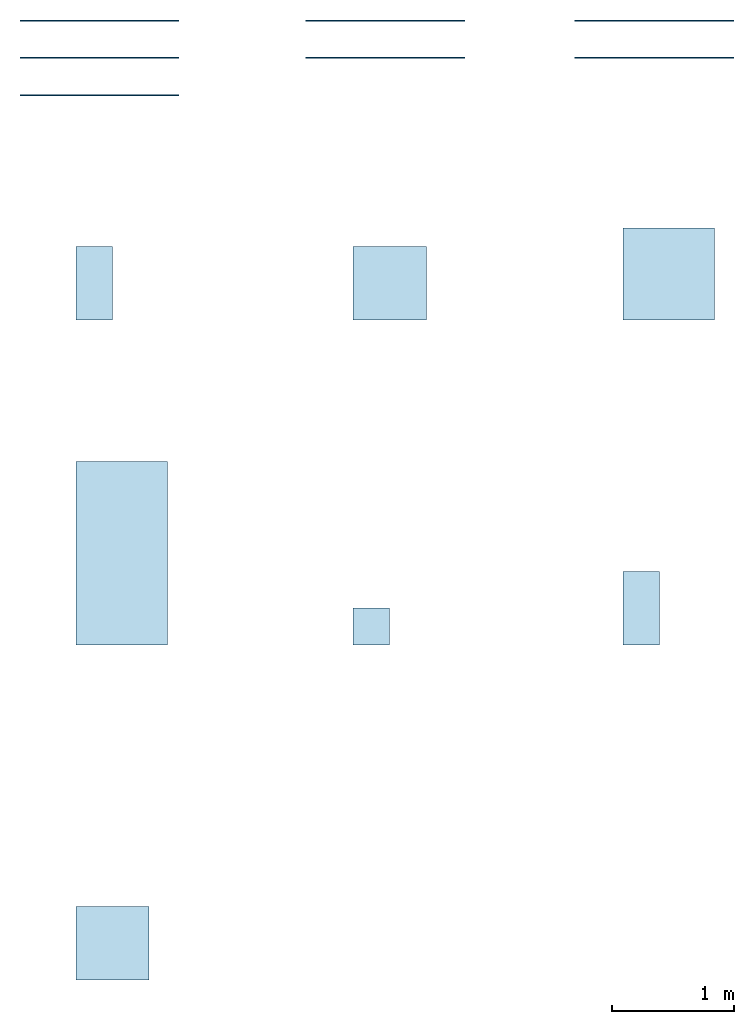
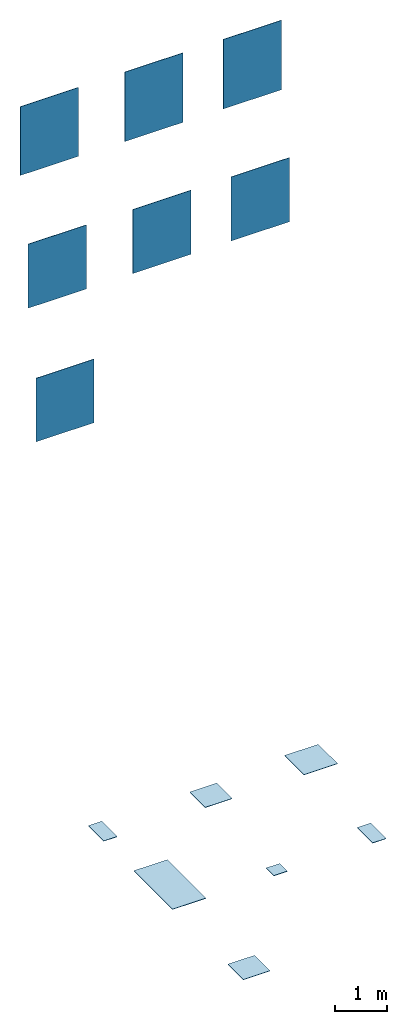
# One storey: 7 slabs, 7 walls.
"""IFC2X3 building model written with IfcOpenShell, lengths in millimetres."""

from ifc_helpers import new_model, entity, si_unit, converted_unit, derived_unit, direction, frame, frame_2d, origin, origin_2d_with_axis, place, context, subcontext, project, spatial, rectangle, extrude, material, layer, layer_set, layer_usage, type_object, element, save


model = new_model("IFC2X3")

# Units and contexts
model_context = context("Model", 3, precision=0.01, world=origin(), true_north=direction((6.12303176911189e-17, 1.0)))
body_context = subcontext(model_context, "Body", "Model", "MODEL_VIEW")
ifc_project = project(units=[si_unit("LENGTHUNIT", "METRE", prefix="MILLI"), si_unit("AREAUNIT", "SQUARE_METRE"), si_unit("VOLUMEUNIT", "CUBIC_METRE"), converted_unit("PLANEANGLEUNIT", "DEGREE", entity("IfcRatioMeasure", 0.0174532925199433), si_unit("PLANEANGLEUNIT", "RADIAN"), dimensions=[0, 0, 0, 0, 0, 0, 0]), si_unit("MASSUNIT", "GRAM", prefix="KILO"), derived_unit("MASSDENSITYUNIT", [(si_unit("MASSUNIT", "GRAM", prefix="KILO"), 1), (si_unit("LENGTHUNIT", "METRE"), -3)]), derived_unit("MOMENTOFINERTIAUNIT", [(si_unit("LENGTHUNIT", "METRE"), 4)]), si_unit("TIMEUNIT", "SECOND"), si_unit("FREQUENCYUNIT", "HERTZ"), si_unit("THERMODYNAMICTEMPERATUREUNIT", "DEGREE_CELSIUS"), derived_unit("THERMALTRANSMITTANCEUNIT", [(si_unit("MASSUNIT", "GRAM", prefix="KILO"), 1), (si_unit("THERMODYNAMICTEMPERATUREUNIT", "KELVIN"), -1), (si_unit("TIMEUNIT", "SECOND"), -3)]), derived_unit("VOLUMETRICFLOWRATEUNIT", [(si_unit("LENGTHUNIT", "METRE"), 3), (si_unit("TIMEUNIT", "SECOND"), -1)]), si_unit("ELECTRICCURRENTUNIT", "AMPERE"), si_unit("ELECTRICVOLTAGEUNIT", "VOLT"), si_unit("POWERUNIT", "WATT"), si_unit("FORCEUNIT", "NEWTON", prefix="KILO"), si_unit("ILLUMINANCEUNIT", "LUX"), si_unit("LUMINOUSFLUXUNIT", "LUMEN"), si_unit("LUMINOUSINTENSITYUNIT", "CANDELA"), derived_unit("USERDEFINED", [(si_unit("MASSUNIT", "GRAM", prefix="KILO"), -1), (si_unit("LENGTHUNIT", "METRE"), -2), (si_unit("TIMEUNIT", "SECOND"), 3), (si_unit("LUMINOUSFLUXUNIT", "LUMEN"), 1)]), derived_unit("LINEARVELOCITYUNIT", [(si_unit("LENGTHUNIT", "METRE"), 1), (si_unit("TIMEUNIT", "SECOND"), -1)]), si_unit("PRESSUREUNIT", "PASCAL"), derived_unit("USERDEFINED", [(si_unit("LENGTHUNIT", "METRE"), -2), (si_unit("MASSUNIT", "GRAM", prefix="KILO"), 1), (si_unit("TIMEUNIT", "SECOND"), -2)]), derived_unit("LINEARFORCEUNIT", [(si_unit("MASSUNIT", "GRAM", prefix="KILO"), 1), (si_unit("LENGTHUNIT", "METRE"), 1), (si_unit("TIMEUNIT", "SECOND"), -2), (si_unit("LENGTHUNIT", "METRE"), -1)]), derived_unit("PLANARFORCEUNIT", [(si_unit("MASSUNIT", "GRAM", prefix="KILO"), 1), (si_unit("LENGTHUNIT", "METRE"), 1), (si_unit("TIMEUNIT", "SECOND"), -2), (si_unit("LENGTHUNIT", "METRE"), -2)])], contexts=[model_context])

# Site, building, storey
site_placement = place(None, origin())
site = spatial("IfcSite", under=ifc_project, at=site_placement, Name="Default", CompositionType="ELEMENT")
building_placement = place(site_placement, origin())
building = spatial("IfcBuilding", under=site, at=building_placement, CompositionType="ELEMENT")
storey_placement = place(building_placement, origin())
storey = spatial("IfcBuildingStorey", under=building, at=storey_placement, Name="Level 0", CompositionType="ELEMENT", Elevation=0.0)

# Slabs
ifc_material_1 = material(Name="Prestigio-Pulpis-Lucido-30x60 NH07")
ifc_layer_1 = layer(ifc_material_1, 9.0)
ifc_material_2 = material(Name="<Unnamed>")
ifc_layer_2 = layer(ifc_material_2, 1.0)
ifc_layer_set_1 = layer_set([ifc_layer_1, ifc_layer_2], Name="Floor:Floor_Tiles_Refin-Prestigio-Pulpis-Lucido-30x60 NH07")
ifc_layer_usage_1 = layer_usage(ifc_layer_set_1, "AXIS3", "POSITIVE", 0.0)
slab_type_1 = type_object("IfcSlabType", Name="Floor:Floor_Tiles_Refin-Prestigio-Pulpis-Lucido-30x60 NH07", PredefinedType="FLOOR", material=ifc_layer_set_1)
slab_1_placement = place(storey_placement, origin())
element("IfcSlab", 1, at=slab_1_placement, inside=storey, type_object=slab_type_1, material=ifc_layer_usage_1, Name="Floor:Floor_Tiles_Refin-Prestigio-Pulpis-Lucido-30x60 NH07", ObjectType="Floor:Floor_Tiles_Refin-Prestigio-Pulpis-Lucido-30x60 NH07", PredefinedType="FLOOR", context=body_context, shape_type="SweptSolid", body=[
    extrude(rectangle(XDim=600.0, YDim=300.0, at=frame_2d((0.0, -5.40012479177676e-13), x_axis=(1.0, 0.0))), frame((6524.37520617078, 5989.4623742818, 0.0), z_axis=(0.0, 0.0, -1.0), x_axis=(0.0, 1.0, 0.0)), (0.0, 0.0, 1.0), 10.0),
])
ifc_material_3 = material(Name="Prestigio-Pulpis-Lucido-75x150 LJ22")
ifc_layer_3 = layer(ifc_material_3, 9.0)
ifc_layer_4 = layer(ifc_material_2, 1.0)
ifc_layer_set_2 = layer_set([ifc_layer_3, ifc_layer_4], Name="Floor:Floor_Tiles_Refin-Prestigio-Pulpis-Lucido-75x150 LJ22")
ifc_layer_usage_2 = layer_usage(ifc_layer_set_2, "AXIS3", "POSITIVE", 0.0)
slab_type_2 = type_object("IfcSlabType", Name="Floor:Floor_Tiles_Refin-Prestigio-Pulpis-Lucido-75x150 LJ22", PredefinedType="FLOOR", material=ifc_layer_set_2)
slab_2_placement = place(storey_placement, origin())
element("IfcSlab", 2, at=slab_2_placement, inside=storey, type_object=slab_type_2, material=ifc_layer_usage_2, Name="Floor:Floor_Tiles_Refin-Prestigio-Pulpis-Lucido-75x150 LJ22", ObjectType="Floor:Floor_Tiles_Refin-Prestigio-Pulpis-Lucido-75x150 LJ22", PredefinedType="FLOOR", context=body_context, shape_type="SweptSolid", body=[
    extrude(rectangle(XDim=1500.0, YDim=750.000000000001, at=origin_2d_with_axis()), frame((6749.37520617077, 3779.4623742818, 0.0), z_axis=(0.0, 0.0, -1.0), x_axis=(0.0, 1.0, 0.0)), (0.0, 0.0, 1.0), 10.0),
])
ifc_material_4 = material(Name="Prestigio-Pulpis-Lucido-Mosaico-30x30 LK04")
ifc_layer_5 = layer(ifc_material_4, 9.0)
ifc_layer_6 = layer(ifc_material_2, 1.0)
ifc_layer_set_3 = layer_set([ifc_layer_5, ifc_layer_6], Name="Floor:Floor_Tiles_Refin-Prestigio-Pulpis-Lucido-Mosaico-30x30 LK04")
ifc_layer_usage_3 = layer_usage(ifc_layer_set_3, "AXIS3", "POSITIVE", 0.0)
slab_type_3 = type_object("IfcSlabType", Name="Floor:Floor_Tiles_Refin-Prestigio-Pulpis-Lucido-Mosaico-30x30 LK04", PredefinedType="FLOOR", material=ifc_layer_set_3)
slab_3_placement = place(storey_placement, origin())
element("IfcSlab", 3, at=slab_3_placement, inside=storey, type_object=slab_type_3, material=ifc_layer_usage_3, Name="Floor:Floor_Tiles_Refin-Prestigio-Pulpis-Lucido-Mosaico-30x30 LK04", ObjectType="Floor:Floor_Tiles_Refin-Prestigio-Pulpis-Lucido-Mosaico-30x30 LK04", PredefinedType="FLOOR", context=body_context, shape_type="SweptSolid", body=[
    extrude(rectangle(XDim=300.0, YDim=300.000000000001, at=origin_2d_with_axis()), frame((8792.39240545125, 3179.4623742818, 0.0), z_axis=(0.0, 0.0, -1.0), x_axis=(0.0, 1.0, 0.0)), (0.0, 0.0, 1.0), 10.0),
])
ifc_material_5 = material(Name="Prestigio-Pulpis-Lucido-60x60 LJ96")
ifc_layer_7 = layer(ifc_material_5, 9.0)
ifc_layer_8 = layer(ifc_material_2, 1.0)
ifc_layer_set_4 = layer_set([ifc_layer_7, ifc_layer_8], Name="Floor:Floor_Tiles_Refin-Prestigio-Pulpis-Lucido-60x60 LJ96")
ifc_layer_usage_4 = layer_usage(ifc_layer_set_4, "AXIS3", "POSITIVE", 0.0)
slab_type_4 = type_object("IfcSlabType", Name="Floor:Floor_Tiles_Refin-Prestigio-Pulpis-Lucido-60x60 LJ96", PredefinedType="FLOOR", material=ifc_layer_set_4)
slab_4_placement = place(storey_placement, origin())
element("IfcSlab", 4, at=slab_4_placement, inside=storey, type_object=slab_type_4, material=ifc_layer_usage_4, Name="Floor:Floor_Tiles_Refin-Prestigio-Pulpis-Lucido-60x60 LJ96", ObjectType="Floor:Floor_Tiles_Refin-Prestigio-Pulpis-Lucido-60x60 LJ96", PredefinedType="FLOOR", context=body_context, shape_type="SweptSolid", body=[
    extrude(rectangle(XDim=600.0, YDim=600.0, at=origin_2d_with_axis()), frame((8942.39240545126, 5988.41920639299, 0.0), z_axis=(0.0, 0.0, -1.0), x_axis=(0.0, 1.0, 0.0)), (0.0, 0.0, 1.0), 10.0),
])
ifc_material_6 = material(Name="Prestigio-Pulpis-Soft-30x60 NE75")
ifc_layer_9 = layer(ifc_material_6, 9.0)
ifc_layer_10 = layer(ifc_material_2, 1.0)
ifc_layer_set_5 = layer_set([ifc_layer_9, ifc_layer_10], Name="Floor:Floor_Tiles_Refin-Prestigio-Pulpis-Soft-30x60 NE75")
ifc_layer_usage_5 = layer_usage(ifc_layer_set_5, "AXIS3", "POSITIVE", 0.0)
slab_type_5 = type_object("IfcSlabType", Name="Floor:Floor_Tiles_Refin-Prestigio-Pulpis-Soft-30x60 NE75", PredefinedType="FLOOR", material=ifc_layer_set_5)
slab_5_placement = place(storey_placement, origin())
element("IfcSlab", 5, at=slab_5_placement, inside=storey, type_object=slab_type_5, material=ifc_layer_usage_5, Name="Floor:Floor_Tiles_Refin-Prestigio-Pulpis-Soft-30x60 NE75", ObjectType="Floor:Floor_Tiles_Refin-Prestigio-Pulpis-Soft-30x60 NE75", PredefinedType="FLOOR", context=body_context, shape_type="SweptSolid", body=[
    extrude(rectangle(XDim=600.0, YDim=300.000000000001, at=origin_2d_with_axis()), frame((11000.4118687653, 3329.46237428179, 0.0), z_axis=(0.0, 0.0, -1.0), x_axis=(0.0, 1.0, 0.0)), (0.0, 0.0, 1.0), 10.0),
])
ifc_material_7 = material(Name="Prestigio-Pulpis-Lucido-75x75 LJ26")
ifc_layer_11 = layer(ifc_material_7, 9.0)
ifc_layer_12 = layer(ifc_material_2, 1.0)
ifc_layer_set_6 = layer_set([ifc_layer_11, ifc_layer_12], Name="Floor:Floor_Tiles_Refin-Prestigio-Pulpis-Lucido-75x75 LJ26")
ifc_layer_usage_6 = layer_usage(ifc_layer_set_6, "AXIS3", "POSITIVE", 0.0)
slab_type_6 = type_object("IfcSlabType", Name="Floor:Floor_Tiles_Refin-Prestigio-Pulpis-Lucido-75x75 LJ26", PredefinedType="FLOOR", material=ifc_layer_set_6)
slab_6_placement = place(storey_placement, origin())
element("IfcSlab", 6, at=slab_6_placement, inside=storey, type_object=slab_type_6, material=ifc_layer_usage_6, Name="Floor:Floor_Tiles_Refin-Prestigio-Pulpis-Lucido-75x75 LJ26", ObjectType="Floor:Floor_Tiles_Refin-Prestigio-Pulpis-Lucido-75x75 LJ26", PredefinedType="FLOOR", context=body_context, shape_type="SweptSolid", body=[
    extrude(rectangle(XDim=750.0, YDim=750.000000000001, at=frame_2d((5.40012479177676e-13, 1.08002495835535e-12), x_axis=(1.0, 0.0))), frame((11225.4118687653, 6064.46237428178, 0.0), z_axis=(0.0, 0.0, -1.0), x_axis=(0.0, 1.0, 0.0)), (0.0, 0.0, 1.0), 10.0),
])
ifc_material_8 = material(Name="Prestigio-Pulpis-Soft-60x60 MS13")
ifc_layer_13 = layer(ifc_material_8, 9.0)
ifc_layer_14 = layer(ifc_material_2, 1.0)
ifc_layer_set_7 = layer_set([ifc_layer_13, ifc_layer_14], Name="Floor:Floor_Tiles_Refin-Prestigio-Pulpis-Soft-60x60 MS13")
ifc_layer_usage_7 = layer_usage(ifc_layer_set_7, "AXIS3", "POSITIVE", 0.0)
slab_type_7 = type_object("IfcSlabType", Name="Floor:Floor_Tiles_Refin-Prestigio-Pulpis-Soft-60x60 MS13", PredefinedType="FLOOR", material=ifc_layer_set_7)
slab_7_placement = place(storey_placement, origin())
element("IfcSlab", 7, at=slab_7_placement, inside=storey, type_object=slab_type_7, material=ifc_layer_usage_7, Name="Floor:Floor_Tiles_Refin-Prestigio-Pulpis-Soft-60x60 MS13", ObjectType="Floor:Floor_Tiles_Refin-Prestigio-Pulpis-Soft-60x60 MS13", PredefinedType="FLOOR", context=body_context, shape_type="SweptSolid", body=[
    extrude(rectangle(XDim=600.0, YDim=600.0, at=frame_2d((0.0, -1.08002495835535e-12), x_axis=(1.0, 0.0))), frame((6674.37520617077, 587.41107270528, 0.0), z_axis=(0.0, 0.0, -1.0), x_axis=(0.0, 1.0, 0.0)), (0.0, 0.0, 1.0), 10.0),
])

# Walls
ifc_layer_15 = layer(ifc_material_2, 1.0)
ifc_layer_16 = layer(ifc_material_5, 9.0)
ifc_layer_set_8 = layer_set([ifc_layer_15, ifc_layer_16], Name="Basic Wall:Wall_Tiles_Refin-Prestigio-Pulpis-Lucido-60x60 LJ96")
ifc_layer_usage_8 = layer_usage(ifc_layer_set_8, "AXIS2", "NEGATIVE", 5.0)
wall_type_1 = type_object("IfcWallType", Name="Basic Wall:Wall_Tiles_Refin-Prestigio-Pulpis-Lucido-60x60 LJ96", PredefinedType="STANDARD", material=ifc_layer_set_8)
wall_1_placement = place(storey_placement, frame((8257.37520617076, 8137.38386313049, 14387.6770443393)))
element("IfcWallStandardCase", 8, at=wall_1_placement, inside=storey, type_object=wall_type_1, material=ifc_layer_usage_8, Name="Basic Wall:Wall_Tiles_Refin-Prestigio-Pulpis-Lucido-60x60 LJ96", ObjectType="Basic Wall:Wall_Tiles_Refin-Prestigio-Pulpis-Lucido-60x60 LJ96", context=body_context, shape_type="SweptSolid", body=[
    extrude(rectangle(XDim=1300.0, YDim=9.99999999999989, at=frame_2d((650.0, 7.63833440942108e-14), x_axis=(-1.0, 0.0))), origin(), (0.0, 0.0, 1.0), 1641.74173522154),
])
ifc_layer_17 = layer(ifc_material_2, 1.0)
ifc_layer_18 = layer(ifc_material_7, 9.0)
ifc_layer_set_9 = layer_set([ifc_layer_17, ifc_layer_18], Name="Basic Wall:Wall_Tiles_Refin-Prestigio-Pulpis-Lucido-75x75 LJ25")
ifc_layer_usage_9 = layer_usage(ifc_layer_set_9, "AXIS2", "NEGATIVE", 5.0)
wall_type_2 = type_object("IfcWallType", Name="Basic Wall:Wall_Tiles_Refin-Prestigio-Pulpis-Lucido-75x75 LJ25", PredefinedType="STANDARD", material=ifc_layer_set_9)
wall_2_placement = place(storey_placement, frame((10457.3752061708, 8137.38386313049, 14387.6770443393)))
element("IfcWallStandardCase", 9, at=wall_2_placement, inside=storey, type_object=wall_type_2, material=ifc_layer_usage_9, Name="Basic Wall:Wall_Tiles_Refin-Prestigio-Pulpis-Lucido-75x75 LJ25", ObjectType="Basic Wall:Wall_Tiles_Refin-Prestigio-Pulpis-Lucido-75x75 LJ25", context=body_context, shape_type="SweptSolid", body=[
    extrude(rectangle(XDim=1300.0, YDim=9.99999999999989, at=frame_2d((650.0, 7.63833440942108e-14), x_axis=(-1.0, 0.0))), origin(), (0.0, 0.0, 1.0), 1641.74173522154),
])
ifc_layer_19 = layer(ifc_material_2, 1.0)
ifc_layer_20 = layer(ifc_material_1, 9.0)
ifc_layer_set_10 = layer_set([ifc_layer_19, ifc_layer_20], Name="Basic Wall:Wall_Tiles_Refin-Prestigio-Pulpis-Lucido-30x60 NH07")
ifc_layer_usage_10 = layer_usage(ifc_layer_set_10, "AXIS2", "NEGATIVE", 5.0)
wall_type_3 = type_object("IfcWallType", Name="Basic Wall:Wall_Tiles_Refin-Prestigio-Pulpis-Lucido-30x60 NH07", PredefinedType="STANDARD", material=ifc_layer_set_10)
wall_3_placement = place(storey_placement, frame((5917.37520617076, 8137.38386313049, 14403.726734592)))
element("IfcWallStandardCase", 10, at=wall_3_placement, inside=storey, type_object=wall_type_3, material=ifc_layer_usage_10, Name="Basic Wall:Wall_Tiles_Refin-Prestigio-Pulpis-Lucido-30x60 NH07", ObjectType="Basic Wall:Wall_Tiles_Refin-Prestigio-Pulpis-Lucido-30x60 NH07", context=body_context, shape_type="SweptSolid", body=[
    extrude(rectangle(XDim=1300.0, YDim=9.99999999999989, at=frame_2d((650.0, 7.63833440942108e-14), x_axis=(-1.0, 0.0))), origin(), (0.0, 0.0, 1.0), 1625.69204496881),
])
ifc_layer_21 = layer(ifc_material_2, 1.0)
ifc_layer_22 = layer(ifc_material_4, 9.0)
ifc_layer_set_11 = layer_set([ifc_layer_21, ifc_layer_22], Name="Basic Wall:Wall_Tiles_Refin-Prestigio-Pulpis-Lucido-Mosaico-30x30 LK04")
ifc_layer_usage_11 = layer_usage(ifc_layer_set_11, "AXIS2", "NEGATIVE", 5.0)
wall_type_4 = type_object("IfcWallType", Name="Basic Wall:Wall_Tiles_Refin-Prestigio-Pulpis-Lucido-Mosaico-30x30 LK04", PredefinedType="STANDARD", material=ifc_layer_set_11)
wall_4_placement = place(storey_placement, frame((8257.37520617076, 7832.38386313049, 11452.5436262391)))
element("IfcWallStandardCase", 11, at=wall_4_placement, inside=storey, type_object=wall_type_4, material=ifc_layer_usage_11, Name="Basic Wall:Wall_Tiles_Refin-Prestigio-Pulpis-Lucido-Mosaico-30x30 LK04", ObjectType="Basic Wall:Wall_Tiles_Refin-Prestigio-Pulpis-Lucido-Mosaico-30x30 LK04", context=body_context, shape_type="SweptSolid", body=[
    extrude(rectangle(XDim=1300.0, YDim=9.99999999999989, at=frame_2d((650.0, 0.0), x_axis=(-1.0, 0.0))), origin(), (0.0, 0.0, 1.0), 1513.19855655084),
])
ifc_layer_23 = layer(ifc_material_2, 1.0)
ifc_layer_24 = layer(ifc_material_8, 9.0)
ifc_layer_set_12 = layer_set([ifc_layer_23, ifc_layer_24], Name="Basic Wall:Wall_Tiles_Refin-Prestigio-Pulpis-Soft-60x60 MS13")
ifc_layer_usage_12 = layer_usage(ifc_layer_set_12, "AXIS2", "NEGATIVE", 5.0)
wall_type_5 = type_object("IfcWallType", Name="Basic Wall:Wall_Tiles_Refin-Prestigio-Pulpis-Soft-60x60 MS13", PredefinedType="STANDARD", material=ifc_layer_set_12)
wall_5_placement = place(storey_placement, frame((5917.37520617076, 7527.38386313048, 8479.10272143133)))
element("IfcWallStandardCase", 12, at=wall_5_placement, inside=storey, type_object=wall_type_5, material=ifc_layer_usage_12, Name="Basic Wall:Wall_Tiles_Refin-Prestigio-Pulpis-Soft-60x60 MS13", ObjectType="Basic Wall:Wall_Tiles_Refin-Prestigio-Pulpis-Soft-60x60 MS13", context=body_context, shape_type="SweptSolid", body=[
    extrude(rectangle(XDim=1300.0, YDim=9.99999999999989, at=frame_2d((650.0, 0.0), x_axis=(-1.0, 0.0))), origin(), (0.0, 0.0, 1.0), 1502.57401590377),
])
ifc_layer_25 = layer(ifc_material_2, 1.0)
ifc_layer_26 = layer(ifc_material_3, 9.0)
ifc_layer_set_13 = layer_set([ifc_layer_25, ifc_layer_26], Name="Basic Wall:Wall_Tiles_Refin-Prestigio-Pulpis-Lucido-75x150 LJ22")
ifc_layer_usage_13 = layer_usage(ifc_layer_set_13, "AXIS2", "POSITIVE", -5.0)
wall_type_6 = type_object("IfcWallType", Name="Basic Wall:Wall_Tiles_Refin-Prestigio-Pulpis-Lucido-75x150 LJ22", PredefinedType="STANDARD", material=ifc_layer_set_13)
wall_6_placement = place(storey_placement, frame((7217.37520617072, 7832.38386313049, 11452.5436262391), z_axis=(0.0, 0.0, 1.0), x_axis=(-1.0, 0.0, 0.0)))
element("IfcWallStandardCase", 13, at=wall_6_placement, inside=storey, type_object=wall_type_6, material=ifc_layer_usage_13, Name="Basic Wall:Wall_Tiles_Refin-Prestigio-Pulpis-Lucido-75x150 LJ22", ObjectType="Basic Wall:Wall_Tiles_Refin-Prestigio-Pulpis-Lucido-75x150 LJ22", context=body_context, shape_type="SweptSolid", body=[
    extrude(rectangle(XDim=1300.0, YDim=9.99999999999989, at=frame_2d((650.000000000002, 0.0), x_axis=(-1.0, 0.0))), origin(), (0.0, 0.0, 1.0), 1513.19855655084),
])
ifc_layer_27 = layer(ifc_material_2, 1.0)
ifc_layer_28 = layer(ifc_material_6, 9.0)
ifc_layer_set_14 = layer_set([ifc_layer_27, ifc_layer_28], Name="Basic Wall:Wall_Tiles_Refin-Prestigio-Pulpis-Soft-30x60 NE75")
ifc_layer_usage_14 = layer_usage(ifc_layer_set_14, "AXIS2", "POSITIVE", -5.0)
wall_type_7 = type_object("IfcWallType", Name="Basic Wall:Wall_Tiles_Refin-Prestigio-Pulpis-Soft-30x60 NE75", PredefinedType="STANDARD", material=ifc_layer_set_14)
wall_7_placement = place(storey_placement, frame((11757.3752061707, 7832.38386313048, 11452.5436262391), z_axis=(0.0, 0.0, 1.0), x_axis=(-1.0, 0.0, 0.0)))
element("IfcWallStandardCase", 14, at=wall_7_placement, inside=storey, type_object=wall_type_7, material=ifc_layer_usage_14, Name="Basic Wall:Wall_Tiles_Refin-Prestigio-Pulpis-Soft-30x60 NE75", ObjectType="Basic Wall:Wall_Tiles_Refin-Prestigio-Pulpis-Soft-30x60 NE75", context=body_context, shape_type="SweptSolid", body=[
    extrude(rectangle(XDim=1300.0, YDim=9.99999999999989, at=frame_2d((650.000000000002, 0.0), x_axis=(-1.0, 0.0))), origin(), (0.0, 0.0, 1.0), 1513.19855655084),
])

save(model, "model.ifc")
